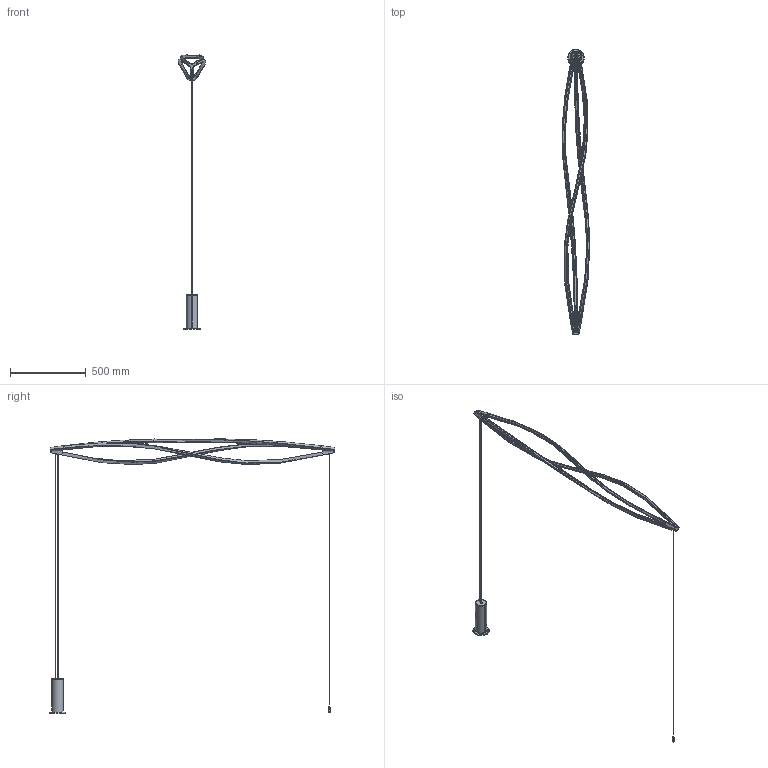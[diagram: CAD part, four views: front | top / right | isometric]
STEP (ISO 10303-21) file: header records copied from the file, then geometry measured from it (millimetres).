
FILE_DESCRIPTION (( 'STEP AP203' ), '1' );
FILE_NAME ('ITW Pendant H cover oplate.STEP', '2017-07-28T09:39:30', ( 'user' ), ( '' ), 'SwSTEP 2.0', 'SolidWorks 2016', '' );
FILE_SCHEMA (( 'CONFIG_CONTROL_DESIGN' ));
Length unit declared in the file: millimetre
Products named in the file (17): 524LJU008000_Round cover plate; cavo; Assieme rosone ITW x sito USA_TERRA; CAVO ACCIAIO; ITW Pendant H cover oplate; 051ITW700400_sospesa orizzontale ; 051ITW800100; 010ITW700300; 051ITW701700_Testata ITW pend H ETL_Sospesa orizzontale foro cavo elettrico; 019COM000271; 010TRU700400; 010GIO700260_Rosone Eu_Us; 051ITW701700_Testata ITW pend H ETL_sospesa orizzontale ; passacavo STEAB 6222; regolatore cavo 2627; 524LCY000001_Crossbar; nipplo testata
Assembly tree (27 placements, depth 3):
  ITW Pendant H cover oplate
    051ITW800100  x3
    051ITW701700_Testata ITW pend H ETL_Sospesa orizzontale foro cavo elettrico
    010TRU700400  x3
    051ITW701700_Testata ITW pend H ETL_sospesa orizzontale 
    regolatore cavo 2627
    nipplo testata
    cavo
    CAVO ACCIAIO  x2
    051ITW700400_sospesa orizzontale   x2
    010ITW700300  x6
    019COM000271
    Assieme rosone ITW x sito USA_TERRA
      010GIO700260_Rosone Eu_Us
      passacavo STEAB 6222
      524LCY000001_Crossbar
      524LJU008000_Round cover plate
Bounding box: 180.39 x 1882.75 x 1808.71 mm (x, y, z)
Volume: 1050857.9 mm3; surface area: 1146767.9 mm2
Topology: 26 solids, 26 shells, 1592 faces, 4198 edges, 2714 vertices
Faces by surface type: plane 940, cylinder 307, bspline 260, cone 50, torus 33, sphere 2
Entity records: 52960 total; most frequent: CARTESIAN_POINT 20509, ORIENTED_EDGE 6750, DIRECTION 5611, EDGE_CURVE 3375, LINE 2239, VECTOR 2239, VERTEX_POINT 2182, AXIS2_PLACEMENT_3D 1686
